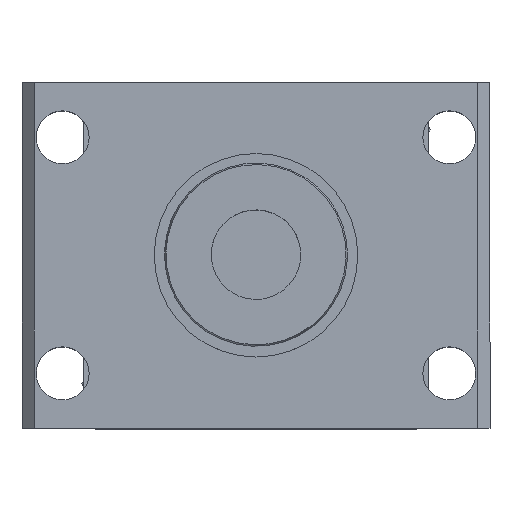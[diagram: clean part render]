
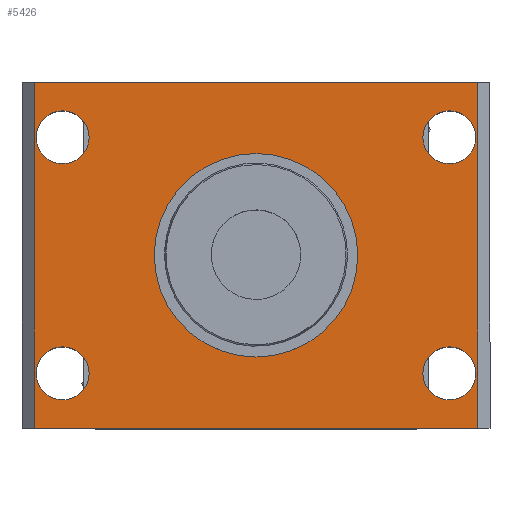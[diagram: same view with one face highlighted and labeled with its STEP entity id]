
A CAD part, top view. The second image highlights one B-rep face of the part: STEP entity #5426.
In plain terms, the highlighted planar face has unit normal (0, 0, 1).
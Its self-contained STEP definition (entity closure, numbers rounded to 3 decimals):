
#64 = AXIS2_PLACEMENT_3D ( 'NONE', #11040, #1487, #12664 ) ;
#80 = VECTOR ( 'NONE', #19149, 1000. ) ;
#341 = AXIS2_PLACEMENT_3D ( 'NONE', #12062, #2509, #13685 ) ;
#518 = DIRECTION ( 'NONE',  ( 0., 0., 1. ) ) ;
#747 = DIRECTION ( 'NONE',  ( 1., 0., 0. ) ) ;
#900 = EDGE_LOOP ( 'NONE', ( #5247, #6998 ) ) ;
#914 = ORIENTED_EDGE ( 'NONE', *, *, #17615, .F. ) ;
#1194 = DIRECTION ( 'NONE',  ( 0., 0., 1. ) ) ;
#1225 = EDGE_CURVE ( 'NONE', #12902, #20404, #2890, .T. ) ;
#1395 = DIRECTION ( 'NONE',  ( 0., 0., 1. ) ) ;
#1487 = DIRECTION ( 'NONE',  ( 0., 0., 1. ) ) ;
#1716 = EDGE_CURVE ( 'NONE', #6096, #10445, #19084, .T. ) ;
#1723 = CARTESIAN_POINT ( 'NONE',  ( -54.5, 42.5, 37. ) ) ;
#2235 = ORIENTED_EDGE ( 'NONE', *, *, #15602, .F. ) ;
#2309 = FACE_OUTER_BOUND ( 'NONE', #6913, .T. ) ;
#2509 = DIRECTION ( 'NONE',  ( 0., 0., 1. ) ) ;
#2541 = VERTEX_POINT ( 'NONE', #8027 ) ;
#2624 = EDGE_CURVE ( 'NONE', #12734, #14075, #15330, .T. ) ;
#2646 = VECTOR ( 'NONE', #5293, 1000. ) ;
#2789 = CARTESIAN_POINT ( 'NONE',  ( -47.5, -29., 37. ) ) ;
#2810 = FACE_BOUND ( 'NONE', #19775, .T. ) ;
#2890 = LINE ( 'NONE', #8596, #15103 ) ;
#3510 = VERTEX_POINT ( 'NONE', #18749 ) ;
#3593 = EDGE_CURVE ( 'NONE', #20404, #6096, #16545, .T. ) ;
#3619 = AXIS2_PLACEMENT_3D ( 'NONE', #10064, #518, #11672 ) ;
#3632 = CARTESIAN_POINT ( 'NONE',  ( 54.5, 42.5, 37. ) ) ;
#3839 = AXIS2_PLACEMENT_3D ( 'NONE', #9024, #20185, #10631 ) ;
#4215 = VERTEX_POINT ( 'NONE', #20592 ) ;
#4278 = CIRCLE ( 'NONE', #6235, 6.5 ) ;
#4367 = ORIENTED_EDGE ( 'NONE', *, *, #14724, .F. ) ;
#4401 = CARTESIAN_POINT ( 'NONE',  ( 41., -29., 37. ) ) ;
#4406 = DIRECTION ( 'NONE',  ( 1., 0., 0. ) ) ;
#4443 = AXIS2_PLACEMENT_3D ( 'NONE', #12726, #4775, #15917 ) ;
#4749 = EDGE_LOOP ( 'NONE', ( #12707, #4367 ) ) ;
#4775 = DIRECTION ( 'NONE',  ( 0., 0., 1. ) ) ;
#5247 = ORIENTED_EDGE ( 'NONE', *, *, #17553, .F. ) ;
#5293 = DIRECTION ( 'NONE',  ( 0., -1., 0. ) ) ;
#5426 = ADVANCED_FACE ( 'NONE', ( #2810, #11292, #10782, #6535, #2309, #15028 ), #14331, .T. ) ;
#5798 = CIRCLE ( 'NONE', #6732, 6.5 ) ;
#5993 = CIRCLE ( 'NONE', #16923, 6.5 ) ;
#6093 = CIRCLE ( 'NONE', #20501, 6.5 ) ;
#6096 = VERTEX_POINT ( 'NONE', #3632 ) ;
#6235 = AXIS2_PLACEMENT_3D ( 'NONE', #10732, #1194, #12350 ) ;
#6535 = FACE_BOUND ( 'NONE', #19905, .T. ) ;
#6728 = DIRECTION ( 'NONE',  ( 0., 0., 1. ) ) ;
#6732 = AXIS2_PLACEMENT_3D ( 'NONE', #2789, #13954, #4406 ) ;
#6763 = CIRCLE ( 'NONE', #341, 6.5 ) ;
#6858 = LINE ( 'NONE', #11624, #2646 ) ;
#6913 = EDGE_LOOP ( 'NONE', ( #14087, #14440, #19677, #11441 ) ) ;
#6998 = ORIENTED_EDGE ( 'NONE', *, *, #17771, .F. ) ;
#7033 = ORIENTED_EDGE ( 'NONE', *, *, #13800, .F. ) ;
#7464 = CIRCLE ( 'NONE', #10502, 6.5 ) ;
#7712 = DIRECTION ( 'NONE',  ( 0., 0., 1. ) ) ;
#7971 = CARTESIAN_POINT ( 'NONE',  ( 54.5, 42.5, 37. ) ) ;
#8027 = CARTESIAN_POINT ( 'NONE',  ( -41., 29., 37. ) ) ;
#8342 = AXIS2_PLACEMENT_3D ( 'NONE', #10940, #1395, #12560 ) ;
#8596 = CARTESIAN_POINT ( 'NONE',  ( -57.5, -42.5, 37. ) ) ;
#8996 = CIRCLE ( 'NONE', #3839, 6.5 ) ;
#9024 = CARTESIAN_POINT ( 'NONE',  ( -47.5, -29., 37. ) ) ;
#9745 = CARTESIAN_POINT ( 'NONE',  ( 25., 0., 37. ) ) ;
#10064 = CARTESIAN_POINT ( 'NONE',  ( 0., 0., 37. ) ) ;
#10272 = VERTEX_POINT ( 'NONE', #4401 ) ;
#10299 = DIRECTION ( 'NONE',  ( 0., 0., 1. ) ) ;
#10445 = VERTEX_POINT ( 'NONE', #1723 ) ;
#10502 = AXIS2_PLACEMENT_3D ( 'NONE', #17288, #7712, #18887 ) ;
#10631 = DIRECTION ( 'NONE',  ( 1., 0., 0. ) ) ;
#10732 = CARTESIAN_POINT ( 'NONE',  ( 47.5, -29., 37. ) ) ;
#10782 = FACE_BOUND ( 'NONE', #20234, .T. ) ;
#10940 = CARTESIAN_POINT ( 'NONE',  ( -47.5, 29., 37. ) ) ;
#11040 = CARTESIAN_POINT ( 'NONE',  ( 0., 0., 37. ) ) ;
#11292 = FACE_BOUND ( 'NONE', #900, .T. ) ;
#11441 = ORIENTED_EDGE ( 'NONE', *, *, #3593, .T. ) ;
#11624 = CARTESIAN_POINT ( 'NONE',  ( -54.5, -42.5, 37. ) ) ;
#11672 = DIRECTION ( 'NONE',  ( 1., 0., 0. ) ) ;
#11834 = DIRECTION ( 'NONE',  ( 1., 0., 0. ) ) ;
#11959 = ORIENTED_EDGE ( 'NONE', *, *, #17612, .F. ) ;
#11984 = VERTEX_POINT ( 'NONE', #12082 ) ;
#12062 = CARTESIAN_POINT ( 'NONE',  ( 47.5, 29., 37. ) ) ;
#12082 = CARTESIAN_POINT ( 'NONE',  ( -41., -29., 37. ) ) ;
#12231 = DIRECTION ( 'NONE',  ( -1., 0., 0. ) ) ;
#12350 = DIRECTION ( 'NONE',  ( 1., 0., 0. ) ) ;
#12560 = DIRECTION ( 'NONE',  ( 1., 0., 0. ) ) ;
#12664 = DIRECTION ( 'NONE',  ( 1., 0., 0. ) ) ;
#12707 = ORIENTED_EDGE ( 'NONE', *, *, #2624, .F. ) ;
#12726 = CARTESIAN_POINT ( 'NONE',  ( 0., 0., 37. ) ) ;
#12734 = VERTEX_POINT ( 'NONE', #13448 ) ;
#12902 = VERTEX_POINT ( 'NONE', #18583 ) ;
#13237 = VERTEX_POINT ( 'NONE', #13700 ) ;
#13366 = CARTESIAN_POINT ( 'NONE',  ( 54.5, -42.5, 37. ) ) ;
#13448 = CARTESIAN_POINT ( 'NONE',  ( -25., 0., 37. ) ) ;
#13685 = DIRECTION ( 'NONE',  ( 1., 0., 0. ) ) ;
#13700 = CARTESIAN_POINT ( 'NONE',  ( 54., -29., 37. ) ) ;
#13800 = EDGE_CURVE ( 'NONE', #20043, #2541, #6093, .T. ) ;
#13954 = DIRECTION ( 'NONE',  ( 0., 0., 1. ) ) ;
#14075 = VERTEX_POINT ( 'NONE', #9745 ) ;
#14087 = ORIENTED_EDGE ( 'NONE', *, *, #1716, .T. ) ;
#14331 = PLANE ( 'NONE',  #4443 ) ;
#14368 = VECTOR ( 'NONE', #12231, 1000. ) ;
#14440 = ORIENTED_EDGE ( 'NONE', *, *, #19902, .T. ) ;
#14724 = EDGE_CURVE ( 'NONE', #14075, #12734, #17292, .T. ) ;
#15028 = FACE_BOUND ( 'NONE', #4749, .T. ) ;
#15103 = VECTOR ( 'NONE', #11834, 1000. ) ;
#15330 = CIRCLE ( 'NONE', #3619, 25. ) ;
#15435 = CARTESIAN_POINT ( 'NONE',  ( -57.5, 42.5, 37. ) ) ;
#15476 = CIRCLE ( 'NONE', #8342, 6.5 ) ;
#15602 = EDGE_CURVE ( 'NONE', #3510, #19331, #6763, .T. ) ;
#15751 = EDGE_CURVE ( 'NONE', #11984, #4215, #5798, .T. ) ;
#15917 = DIRECTION ( 'NONE',  ( 1., 0., 0. ) ) ;
#16303 = CARTESIAN_POINT ( 'NONE',  ( 47.5, -29., 37. ) ) ;
#16545 = LINE ( 'NONE', #7971, #80 ) ;
#16601 = EDGE_CURVE ( 'NONE', #4215, #11984, #8996, .T. ) ;
#16923 = AXIS2_PLACEMENT_3D ( 'NONE', #16303, #6728, #17907 ) ;
#17288 = CARTESIAN_POINT ( 'NONE',  ( 47.5, 29., 37. ) ) ;
#17292 = CIRCLE ( 'NONE', #64, 25. ) ;
#17318 = ORIENTED_EDGE ( 'NONE', *, *, #15751, .F. ) ;
#17553 = EDGE_CURVE ( 'NONE', #10272, #13237, #4278, .T. ) ;
#17612 = EDGE_CURVE ( 'NONE', #19331, #3510, #7464, .T. ) ;
#17615 = EDGE_CURVE ( 'NONE', #2541, #20043, #15476, .T. ) ;
#17771 = EDGE_CURVE ( 'NONE', #13237, #10272, #5993, .T. ) ;
#17907 = DIRECTION ( 'NONE',  ( 1., 0., 0. ) ) ;
#18583 = CARTESIAN_POINT ( 'NONE',  ( -54.5, -42.5, 37. ) ) ;
#18593 = CARTESIAN_POINT ( 'NONE',  ( -54., 29., 37. ) ) ;
#18655 = ORIENTED_EDGE ( 'NONE', *, *, #16601, .F. ) ;
#18700 = CARTESIAN_POINT ( 'NONE',  ( 41., 29., 37. ) ) ;
#18749 = CARTESIAN_POINT ( 'NONE',  ( 54., 29., 37. ) ) ;
#18887 = DIRECTION ( 'NONE',  ( 1., 0., 0. ) ) ;
#19084 = LINE ( 'NONE', #15435, #14368 ) ;
#19149 = DIRECTION ( 'NONE',  ( 0., 1., 0. ) ) ;
#19331 = VERTEX_POINT ( 'NONE', #18700 ) ;
#19677 = ORIENTED_EDGE ( 'NONE', *, *, #1225, .T. ) ;
#19775 = EDGE_LOOP ( 'NONE', ( #18655, #17318 ) ) ;
#19851 = CARTESIAN_POINT ( 'NONE',  ( -47.5, 29., 37. ) ) ;
#19902 = EDGE_CURVE ( 'NONE', #10445, #12902, #6858, .T. ) ;
#19905 = EDGE_LOOP ( 'NONE', ( #7033, #914 ) ) ;
#20043 = VERTEX_POINT ( 'NONE', #18593 ) ;
#20185 = DIRECTION ( 'NONE',  ( 0., 0., 1. ) ) ;
#20234 = EDGE_LOOP ( 'NONE', ( #11959, #2235 ) ) ;
#20404 = VERTEX_POINT ( 'NONE', #13366 ) ;
#20501 = AXIS2_PLACEMENT_3D ( 'NONE', #19851, #10299, #747 ) ;
#20592 = CARTESIAN_POINT ( 'NONE',  ( -54., -29., 37. ) ) ;
